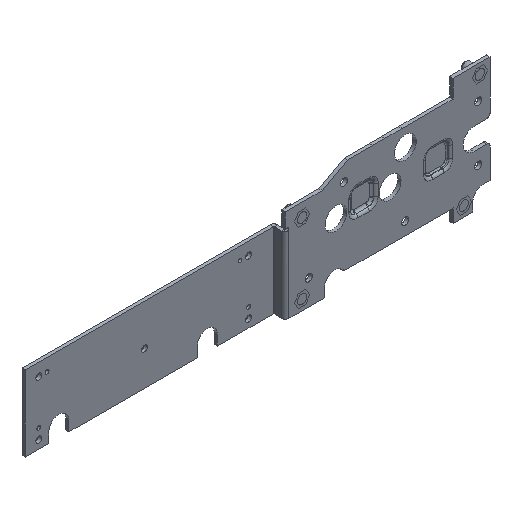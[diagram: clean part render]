
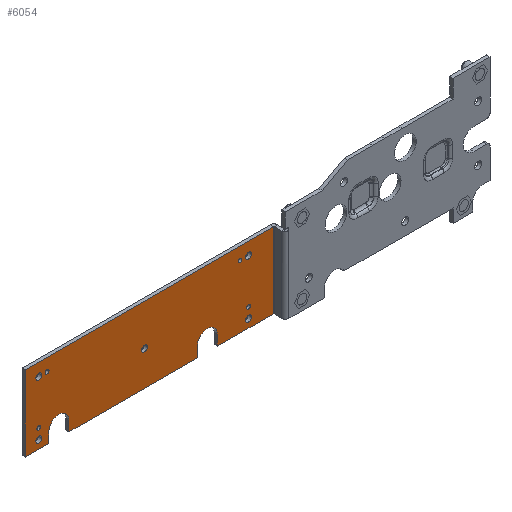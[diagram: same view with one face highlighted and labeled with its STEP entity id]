
A CAD part, isometric view. The second image highlights one B-rep face of the part: STEP entity #6054.
In plain terms, the highlighted planar face has unit normal (0, -1, 0).
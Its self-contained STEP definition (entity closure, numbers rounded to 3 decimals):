
#1734=CARTESIAN_POINT('',(-135.,6.9,-22.5));
#1735=DIRECTION('',(0.,1.,0.));
#1736=DIRECTION('',(-1.,0.,0.));
#1737=AXIS2_PLACEMENT_3D('',#1734,#1735,#1736);
#1739=CARTESIAN_POINT('',(-135.,6.9,-22.5));
#1740=DIRECTION('',(0.,1.,0.));
#1741=DIRECTION('',(1.,0.,0.));
#1742=AXIS2_PLACEMENT_3D('',#1739,#1740,#1741);
#1744=CARTESIAN_POINT('',(-10.,6.9,-22.5));
#1745=DIRECTION('',(0.,1.,0.));
#1746=DIRECTION('',(-1.,0.,0.));
#1747=AXIS2_PLACEMENT_3D('',#1744,#1745,#1746);
#1749=CARTESIAN_POINT('',(-10.,6.9,-22.5));
#1750=DIRECTION('',(0.,1.,0.));
#1751=DIRECTION('',(1.,0.,0.));
#1752=AXIS2_PLACEMENT_3D('',#1749,#1750,#1751);
#1754=CARTESIAN_POINT('',(-10.,6.9,10.));
#1755=DIRECTION('',(0.,1.,0.));
#1756=DIRECTION('',(-1.,0.,0.));
#1757=AXIS2_PLACEMENT_3D('',#1754,#1755,#1756);
#1759=CARTESIAN_POINT('',(-10.,6.9,10.));
#1760=DIRECTION('',(0.,1.,0.));
#1761=DIRECTION('',(1.,0.,0.));
#1762=AXIS2_PLACEMENT_3D('',#1759,#1760,#1761);
#1764=CARTESIAN_POINT('',(-72.,6.9,-7.));
#1765=DIRECTION('',(0.,1.,0.));
#1766=DIRECTION('',(-1.,0.,0.));
#1767=AXIS2_PLACEMENT_3D('',#1764,#1765,#1766);
#1769=CARTESIAN_POINT('',(-72.,6.9,-7.));
#1770=DIRECTION('',(0.,1.,0.));
#1771=DIRECTION('',(1.,0.,0.));
#1772=AXIS2_PLACEMENT_3D('',#1769,#1770,#1771);
#1774=CARTESIAN_POINT('',(-135.,6.9,10.));
#1775=DIRECTION('',(0.,1.,0.));
#1776=DIRECTION('',(-1.,0.,0.));
#1777=AXIS2_PLACEMENT_3D('',#1774,#1775,#1776);
#1779=CARTESIAN_POINT('',(-135.,6.9,10.));
#1780=DIRECTION('',(0.,1.,0.));
#1781=DIRECTION('',(1.,0.,0.));
#1782=AXIS2_PLACEMENT_3D('',#1779,#1780,#1781);
#1784=CARTESIAN_POINT('',(-135.,6.9,-16.5));
#1785=DIRECTION('',(0.,1.,0.));
#1786=DIRECTION('',(-1.,0.,0.));
#1787=AXIS2_PLACEMENT_3D('',#1784,#1785,#1786);
#1789=CARTESIAN_POINT('',(-135.,6.9,-16.5));
#1790=DIRECTION('',(0.,1.,0.));
#1791=DIRECTION('',(1.,0.,0.));
#1792=AXIS2_PLACEMENT_3D('',#1789,#1790,#1791);
#1794=CARTESIAN_POINT('',(-130.,6.9,10.));
#1795=DIRECTION('',(0.,1.,0.));
#1796=DIRECTION('',(-1.,0.,0.));
#1797=AXIS2_PLACEMENT_3D('',#1794,#1795,#1796);
#1799=CARTESIAN_POINT('',(-130.,6.9,10.));
#1800=DIRECTION('',(0.,1.,0.));
#1801=DIRECTION('',(1.,0.,0.));
#1802=AXIS2_PLACEMENT_3D('',#1799,#1800,#1801);
#1804=CARTESIAN_POINT('',(-15.,6.9,10.));
#1805=DIRECTION('',(0.,1.,0.));
#1806=DIRECTION('',(-1.,0.,0.));
#1807=AXIS2_PLACEMENT_3D('',#1804,#1805,#1806);
#1809=CARTESIAN_POINT('',(-15.,6.9,10.));
#1810=DIRECTION('',(0.,1.,0.));
#1811=DIRECTION('',(1.,0.,0.));
#1812=AXIS2_PLACEMENT_3D('',#1809,#1810,#1811);
#1814=CARTESIAN_POINT('',(-10.,6.9,-16.5));
#1815=DIRECTION('',(0.,1.,0.));
#1816=DIRECTION('',(-1.,0.,0.));
#1817=AXIS2_PLACEMENT_3D('',#1814,#1815,#1816);
#1819=CARTESIAN_POINT('',(-10.,6.9,-16.5));
#1820=DIRECTION('',(0.,1.,0.));
#1821=DIRECTION('',(1.,0.,0.));
#1822=AXIS2_PLACEMENT_3D('',#1819,#1820,#1821);
#1824=DIRECTION('',(0.,0.,1.));
#1825=VECTOR('',#1824,6.);
#1826=CARTESIAN_POINT('',(-28.5,6.9,-27.5));
#1827=LINE('',#1826,#1825);
#1828=CARTESIAN_POINT('',(-34.5,6.9,-21.5));
#1829=DIRECTION('',(0.,1.,0.));
#1830=DIRECTION('',(-1.,0.,0.));
#1831=AXIS2_PLACEMENT_3D('',#1828,#1829,#1830);
#1833=DIRECTION('',(0.,0.,1.));
#1834=VECTOR('',#1833,6.);
#1835=CARTESIAN_POINT('',(-40.5,6.9,-27.5));
#1836=LINE('',#1835,#1834);
#1837=DIRECTION('',(-1.,0.,0.));
#1838=VECTOR('',#1837,76.5);
#1839=CARTESIAN_POINT('',(-40.5,6.9,-27.5));
#1840=LINE('',#1839,#1838);
#1841=DIRECTION('',(0.,0.,1.));
#1842=VECTOR('',#1841,6.);
#1843=CARTESIAN_POINT('',(-117.,6.9,-27.5));
#1844=LINE('',#1843,#1842);
#1845=CARTESIAN_POINT('',(-123.,6.9,-21.5));
#1846=DIRECTION('',(0.,1.,0.));
#1847=DIRECTION('',(-1.,0.,0.));
#1848=AXIS2_PLACEMENT_3D('',#1845,#1846,#1847);
#1850=DIRECTION('',(0.,0.,1.));
#1851=VECTOR('',#1850,6.);
#1852=CARTESIAN_POINT('',(-129.,6.9,-27.5));
#1853=LINE('',#1852,#1851);
#1854=DIRECTION('',(-1.,0.,0.));
#1855=VECTOR('',#1854,14.);
#1856=CARTESIAN_POINT('',(-129.,6.9,-27.5));
#1857=LINE('',#1856,#1855);
#1858=DIRECTION('',(0.,0.,1.));
#1859=VECTOR('',#1858,45.);
#1860=CARTESIAN_POINT('',(-143.,6.9,-27.5));
#1861=LINE('',#1860,#1859);
#1862=DIRECTION('',(1.,0.,0.));
#1863=VECTOR('',#1862,147.8);
#1864=CARTESIAN_POINT('',(-143.,6.9,17.5));
#1865=LINE('',#1864,#1863);
#1866=DIRECTION('',(-1.,0.,0.));
#1867=VECTOR('',#1866,33.3);
#1868=CARTESIAN_POINT('',(4.8,6.9,-27.5));
#1869=LINE('',#1868,#1867);
#1946=DIRECTION('',(0.,0.,-1.));
#1947=VECTOR('',#1946,45.);
#1948=CARTESIAN_POINT('',(4.8,6.9,17.5));
#1949=LINE('',#1948,#1947);
#2848=CARTESIAN_POINT('',(-143.,6.9,-27.5));
#2849=CARTESIAN_POINT('',(-143.,6.9,17.5));
#2850=VERTEX_POINT('',#2848);
#2851=VERTEX_POINT('',#2849);
#2852=CARTESIAN_POINT('',(4.8,6.9,17.5));
#2853=VERTEX_POINT('',#2852);
#2854=CARTESIAN_POINT('',(4.8,6.9,-27.5));
#2855=VERTEX_POINT('',#2854);
#2918=CARTESIAN_POINT('',(-136.75,6.9,-22.5));
#2919=CARTESIAN_POINT('',(-133.25,6.9,-22.5));
#2920=VERTEX_POINT('',#2918);
#2921=VERTEX_POINT('',#2919);
#2922=CARTESIAN_POINT('',(-11.75,6.9,-22.5));
#2923=CARTESIAN_POINT('',(-8.25,6.9,-22.5));
#2924=VERTEX_POINT('',#2922);
#2925=VERTEX_POINT('',#2923);
#2926=CARTESIAN_POINT('',(-11.75,6.9,10.));
#2927=CARTESIAN_POINT('',(-8.25,6.9,10.));
#2928=VERTEX_POINT('',#2926);
#2929=VERTEX_POINT('',#2927);
#2930=CARTESIAN_POINT('',(-73.75,6.9,-7.));
#2931=CARTESIAN_POINT('',(-70.25,6.9,-7.));
#2932=VERTEX_POINT('',#2930);
#2933=VERTEX_POINT('',#2931);
#2934=CARTESIAN_POINT('',(-136.75,6.9,10.));
#2935=CARTESIAN_POINT('',(-133.25,6.9,10.));
#2936=VERTEX_POINT('',#2934);
#2937=VERTEX_POINT('',#2935);
#2958=CARTESIAN_POINT('',(-136.1,6.9,-16.5));
#2959=CARTESIAN_POINT('',(-133.9,6.9,-16.5));
#2960=VERTEX_POINT('',#2958);
#2961=VERTEX_POINT('',#2959);
#2962=CARTESIAN_POINT('',(-131.1,6.9,10.));
#2963=CARTESIAN_POINT('',(-128.9,6.9,10.));
#2964=VERTEX_POINT('',#2962);
#2965=VERTEX_POINT('',#2963);
#2966=CARTESIAN_POINT('',(-16.1,6.9,10.));
#2967=CARTESIAN_POINT('',(-13.9,6.9,10.));
#2968=VERTEX_POINT('',#2966);
#2969=VERTEX_POINT('',#2967);
#2970=CARTESIAN_POINT('',(-11.1,6.9,-16.5));
#2971=CARTESIAN_POINT('',(-8.9,6.9,-16.5));
#2972=VERTEX_POINT('',#2970);
#2973=VERTEX_POINT('',#2971);
#2990=CARTESIAN_POINT('',(-28.5,6.9,-27.5));
#2991=CARTESIAN_POINT('',(-28.5,6.9,-21.5));
#2992=VERTEX_POINT('',#2990);
#2993=VERTEX_POINT('',#2991);
#2994=CARTESIAN_POINT('',(-40.5,6.9,-21.5));
#2995=VERTEX_POINT('',#2994);
#2996=CARTESIAN_POINT('',(-40.5,6.9,-27.5));
#2997=VERTEX_POINT('',#2996);
#2998=CARTESIAN_POINT('',(-117.,6.9,-27.5));
#2999=CARTESIAN_POINT('',(-117.,6.9,-21.5));
#3000=VERTEX_POINT('',#2998);
#3001=VERTEX_POINT('',#2999);
#3002=CARTESIAN_POINT('',(-129.,6.9,-21.5));
#3003=VERTEX_POINT('',#3002);
#3004=CARTESIAN_POINT('',(-129.,6.9,-27.5));
#3005=VERTEX_POINT('',#3004);
#5970=CARTESIAN_POINT('',(7.,6.9,-27.5));
#5971=DIRECTION('',(0.,1.,0.));
#5972=DIRECTION('',(0.,0.,-1.));
#5973=AXIS2_PLACEMENT_3D('',#5970,#5971,#5972);
#5974=PLANE('',#5973);
#5976=ORIENTED_EDGE('',*,*,#5975,.T.);
#5978=ORIENTED_EDGE('',*,*,#5977,.F.);
#5980=ORIENTED_EDGE('',*,*,#5979,.F.);
#5982=ORIENTED_EDGE('',*,*,#5981,.T.);
#5984=ORIENTED_EDGE('',*,*,#5983,.T.);
#5986=ORIENTED_EDGE('',*,*,#5985,.F.);
#5988=ORIENTED_EDGE('',*,*,#5987,.F.);
#5990=ORIENTED_EDGE('',*,*,#5989,.T.);
#5992=ORIENTED_EDGE('',*,*,#5991,.T.);
#5994=ORIENTED_EDGE('',*,*,#5993,.T.);
#5996=ORIENTED_EDGE('',*,*,#5995,.T.);
#5998=ORIENTED_EDGE('',*,*,#5997,.T.);
#5999=EDGE_LOOP('',(#5976,#5978,#5980,#5982,#5984,#5986,#5988,#5990,#5992,#5994,
#5996,#5998));
#6000=FACE_OUTER_BOUND('',#5999,.F.);
#6002=ORIENTED_EDGE('',*,*,#6001,.F.);
#6004=ORIENTED_EDGE('',*,*,#6003,.F.);
#6005=EDGE_LOOP('',(#6002,#6004));
#6006=FACE_BOUND('',#6005,.F.);
#6008=ORIENTED_EDGE('',*,*,#6007,.F.);
#6010=ORIENTED_EDGE('',*,*,#6009,.F.);
#6011=EDGE_LOOP('',(#6008,#6010));
#6012=FACE_BOUND('',#6011,.F.);
#6014=ORIENTED_EDGE('',*,*,#6013,.F.);
#6016=ORIENTED_EDGE('',*,*,#6015,.F.);
#6017=EDGE_LOOP('',(#6014,#6016));
#6018=FACE_BOUND('',#6017,.F.);
#6019=ORIENTED_EDGE('',*,*,#5960,.F.);
#6021=ORIENTED_EDGE('',*,*,#6020,.F.);
#6022=EDGE_LOOP('',(#6019,#6021));
#6023=FACE_BOUND('',#6022,.F.);
#6025=ORIENTED_EDGE('',*,*,#6024,.F.);
#6027=ORIENTED_EDGE('',*,*,#6026,.F.);
#6028=EDGE_LOOP('',(#6025,#6027));
#6029=FACE_BOUND('',#6028,.F.);
#6031=ORIENTED_EDGE('',*,*,#6030,.F.);
#6033=ORIENTED_EDGE('',*,*,#6032,.F.);
#6034=EDGE_LOOP('',(#6031,#6033));
#6035=FACE_BOUND('',#6034,.F.);
#6037=ORIENTED_EDGE('',*,*,#6036,.F.);
#6039=ORIENTED_EDGE('',*,*,#6038,.F.);
#6040=EDGE_LOOP('',(#6037,#6039));
#6041=FACE_BOUND('',#6040,.F.);
#6043=ORIENTED_EDGE('',*,*,#6042,.F.);
#6045=ORIENTED_EDGE('',*,*,#6044,.F.);
#6046=EDGE_LOOP('',(#6043,#6045));
#6047=FACE_BOUND('',#6046,.F.);
#6049=ORIENTED_EDGE('',*,*,#6048,.F.);
#6051=ORIENTED_EDGE('',*,*,#6050,.F.);
#6052=EDGE_LOOP('',(#6049,#6051));
#6053=FACE_BOUND('',#6052,.F.);
#6054=ADVANCED_FACE('',(#6000,#6006,#6012,#6018,#6023,#6029,#6035,#6041,#6047,
#6053),#5974,.F.);
#1738=CIRCLE('',#1737,1.75);
#1743=CIRCLE('',#1742,1.75);
#1748=CIRCLE('',#1747,1.75);
#1753=CIRCLE('',#1752,1.75);
#1758=CIRCLE('',#1757,1.75);
#1763=CIRCLE('',#1762,1.75);
#1768=CIRCLE('',#1767,1.75);
#1773=CIRCLE('',#1772,1.75);
#1778=CIRCLE('',#1777,1.75);
#1783=CIRCLE('',#1782,1.75);
#1788=CIRCLE('',#1787,1.1);
#1793=CIRCLE('',#1792,1.1);
#1798=CIRCLE('',#1797,1.1);
#1803=CIRCLE('',#1802,1.1);
#1808=CIRCLE('',#1807,1.1);
#1813=CIRCLE('',#1812,1.1);
#1818=CIRCLE('',#1817,1.1);
#1823=CIRCLE('',#1822,1.1);
#1832=CIRCLE('',#1831,6.);
#1849=CIRCLE('',#1848,6.);
#5960=EDGE_CURVE('',#2936,#2937,#1778,.T.);
#5975=EDGE_CURVE('',#2992,#2993,#1827,.T.);
#5977=EDGE_CURVE('',#2995,#2993,#1832,.T.);
#5979=EDGE_CURVE('',#2997,#2995,#1836,.T.);
#5981=EDGE_CURVE('',#2997,#3000,#1840,.T.);
#5983=EDGE_CURVE('',#3000,#3001,#1844,.T.);
#5985=EDGE_CURVE('',#3003,#3001,#1849,.T.);
#5987=EDGE_CURVE('',#3005,#3003,#1853,.T.);
#5989=EDGE_CURVE('',#3005,#2850,#1857,.T.);
#5991=EDGE_CURVE('',#2850,#2851,#1861,.T.);
#5993=EDGE_CURVE('',#2851,#2853,#1865,.T.);
#5995=EDGE_CURVE('',#2853,#2855,#1949,.T.);
#5997=EDGE_CURVE('',#2855,#2992,#1869,.T.);
#6001=EDGE_CURVE('',#2924,#2925,#1748,.T.);
#6003=EDGE_CURVE('',#2925,#2924,#1753,.T.);
#6007=EDGE_CURVE('',#2928,#2929,#1758,.T.);
#6009=EDGE_CURVE('',#2929,#2928,#1763,.T.);
#6013=EDGE_CURVE('',#2932,#2933,#1768,.T.);
#6015=EDGE_CURVE('',#2933,#2932,#1773,.T.);
#6020=EDGE_CURVE('',#2937,#2936,#1783,.T.);
#6024=EDGE_CURVE('',#2960,#2961,#1788,.T.);
#6026=EDGE_CURVE('',#2961,#2960,#1793,.T.);
#6030=EDGE_CURVE('',#2964,#2965,#1798,.T.);
#6032=EDGE_CURVE('',#2965,#2964,#1803,.T.);
#6036=EDGE_CURVE('',#2968,#2969,#1808,.T.);
#6038=EDGE_CURVE('',#2969,#2968,#1813,.T.);
#6042=EDGE_CURVE('',#2972,#2973,#1818,.T.);
#6044=EDGE_CURVE('',#2973,#2972,#1823,.T.);
#6048=EDGE_CURVE('',#2920,#2921,#1738,.T.);
#6050=EDGE_CURVE('',#2921,#2920,#1743,.T.);
